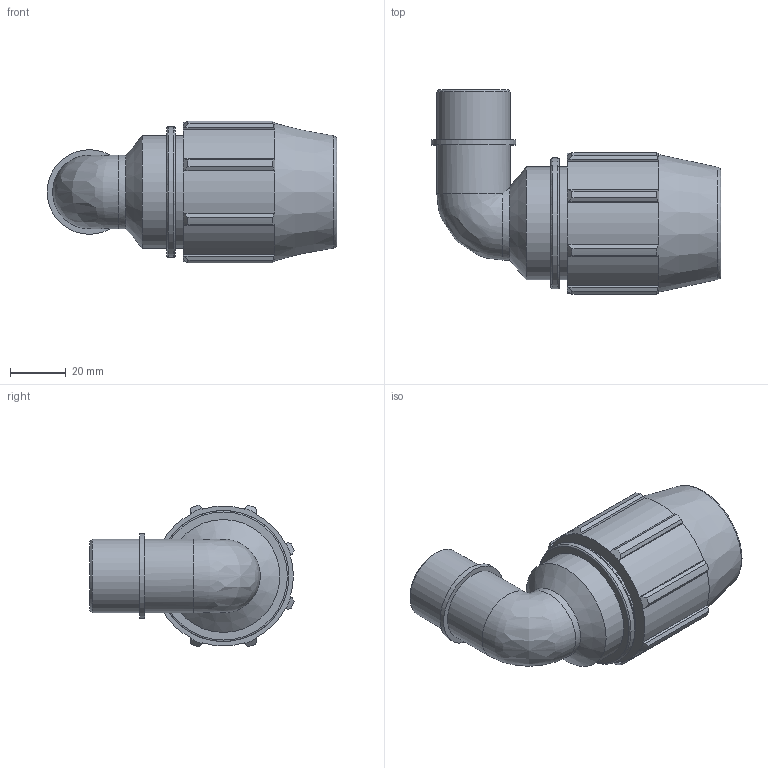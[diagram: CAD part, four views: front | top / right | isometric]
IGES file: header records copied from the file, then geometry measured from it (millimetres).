
Global section: file name: 0785M0007007.ipt; native system: Autodesk Inventor 2019; preprocessor: unknown; author: KIM; date: 20210826.124933; units: inch
Bounding box: 104.1 x 73.46 x 50.91 mm (x, y, z)
Volume: 106676.8 mm3; surface area: 29233.9 mm2
Topology: 1 solids, 1 shells, 86 faces, 237 edges, 158 vertices
Faces by surface type: plane 41, cylinder 23, cone 12, revolution 9, bspline 1
Full cylindrical faces by diameter (mm): 26.441 x2, 30.407 x1, 40.576 x2, 47.069 x1
